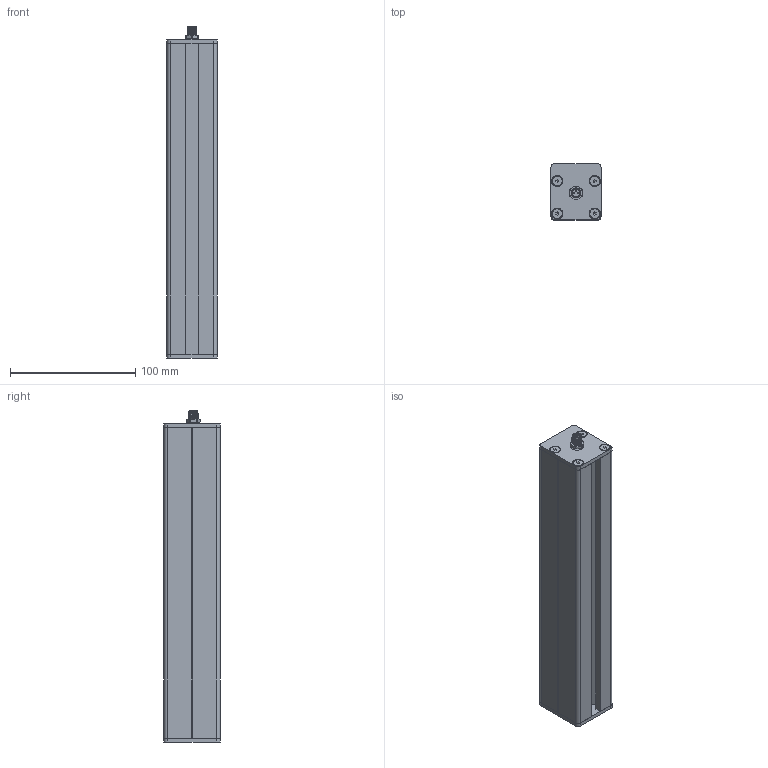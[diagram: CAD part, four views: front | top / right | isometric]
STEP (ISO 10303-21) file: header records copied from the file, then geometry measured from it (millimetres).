
FILE_DESCRIPTION (( 'STEP AP214' ), '1' );
FILE_NAME ('19070-STP01v01 - BL250_Bar light.STEP', '2019-11-05T18:59:53', ( '' ), ( '' ), 'SwSTEP 2.0', 'SolidWorks 2018', '' );
FILE_SCHEMA (( 'AUTOMOTIVE_DESIGN' ));
Length unit declared in the file: millimetre
Products named in the file (7): 19070002-PRT01v02 - BL250_Perfil U para construcción; socket countersunk head screw_am_B18.3.5M - 4 x 0.7 x 8 Socket FCHS  -- 8N; 19039006-PRT06v01 - FL_Conector para página; 19070003-PRT03v01 - Tapa final conector Bar light; 19070-STP01v01 - BL250_Bar light; 19070002-PRT02v01 - Tapa final Bar light; 19070004-PRT03v01 - BL250_Difusor 6 mm
Assembly tree (13 placements, depth 2):
  19070-STP01v01 - BL250_Bar light
    19070002-PRT01v02 - BL250_Perfil U para construcción
    19070004-PRT03v01 - BL250_Difusor 6 mm
    19070002-PRT02v01 - Tapa final Bar light
    19070003-PRT03v01 - Tapa final conector Bar light
    19039006-PRT06v01 - FL_Conector para página
    socket countersunk head screw_am_B18.3.5M - 4 x 0.7 x 8 Socket FCHS  -- 8N  x8
Bounding box: 40 x 45 x 265.44 mm (x, y, z)
Volume: 388089.2 mm3; surface area: 94214.8 mm2
Topology: 13 solids, 13 shells, 341 faces, 825 edges, 508 vertices
Faces by surface type: plane 187, cylinder 72, cone 51, torus 14, bspline 11, sphere 6
Full cylindrical faces by diameter (mm): 4 x8, 4.5 x8, 7.8 x8
Entity records: 9928 total; most frequent: CARTESIAN_POINT 4775, ORIENTED_EDGE 978, DIRECTION 941, EDGE_CURVE 489, AXIS2_PLACEMENT_3D 349, VERTEX_POINT 326, EDGE_LOOP 249, LINE 243
